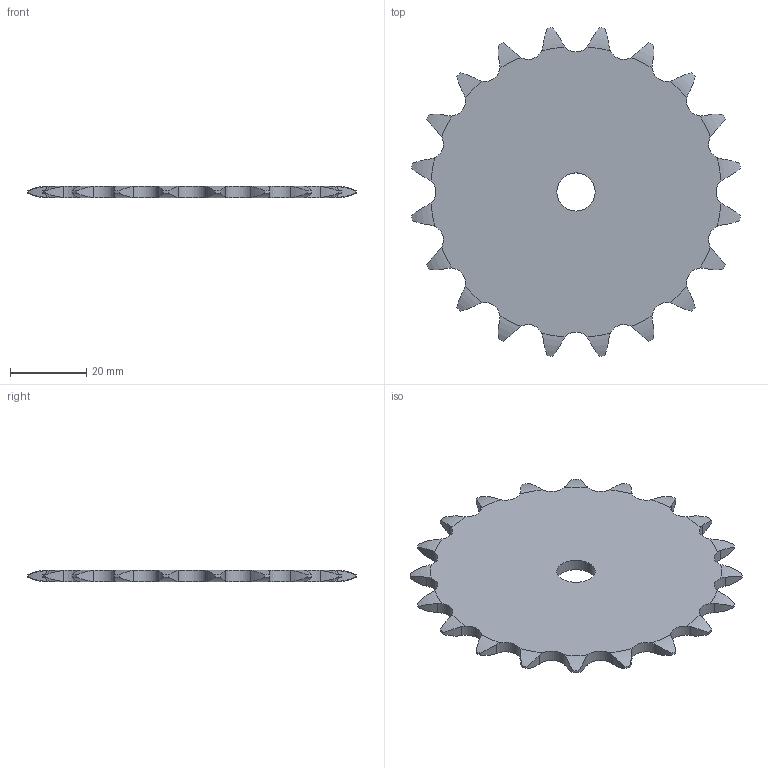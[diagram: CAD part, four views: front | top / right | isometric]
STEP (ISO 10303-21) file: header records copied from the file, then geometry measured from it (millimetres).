
FILE_DESCRIPTION((''),'2;1');
FILE_NAME('500-231-0020_PRT','2021-02-12T',('Brieden'),('Brieden'),'PRO/ENGINEER BY PARAMETRIC TECHNOLOGY CORPORATION, 2010160','PRO/ENGINEER BY PARAMETRIC TECHNOLOGY CORPORATION, 2010160','');
FILE_SCHEMA(('AUTOMOTIVE_DESIGN { 1 0 10303 214 1 1 1 1 }'));
Length unit declared in the file: millimetre
Products named in the file (1): 500-231-0020_PRT
Bounding box: 86.05 x 86.05 x 3 mm (x, y, z)
Volume: 14116.1 mm3; surface area: 10619.1 mm2
Topology: 1 solids, 1 shells, 124 faces, 366 edges, 244 vertices
Faces by surface type: cylinder 82, torus 40, plane 2
Entity records: 6006 total; most frequent: CARTESIAN_POINT 1717, ORIENTED_EDGE 732, DIRECTION 578, PRESENTATION_STYLE_ASSIGNMENT 367, STYLED_ITEM 367, CURVE_STYLE 366, EDGE_CURVE 366, AXIS2_PLACEMENT_3D 248
